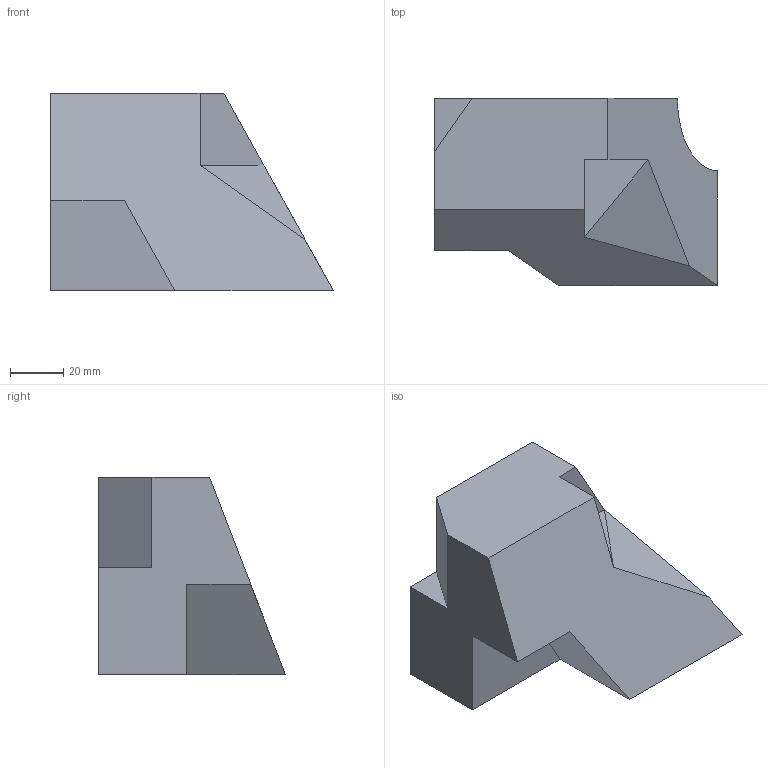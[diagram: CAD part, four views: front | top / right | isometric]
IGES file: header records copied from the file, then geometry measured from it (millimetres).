
Global section: file name: 761004R1001; native system: AutoCAD 2024 - 한국어(Korean),62HAu; preprocessor: todesk Translation Framework DWG producer (atf_dwg_producer); organization: unknown; date: 20261024.102322; units: millimetre
Bounding box: 106 x 70 x 74 mm (x, y, z)
Volume: 267374.7 mm3; surface area: 29798 mm2
Topology: 1 solids, 1 shells, 17 faces, 43 edges, 28 vertices
Faces by surface type: bspline 17
